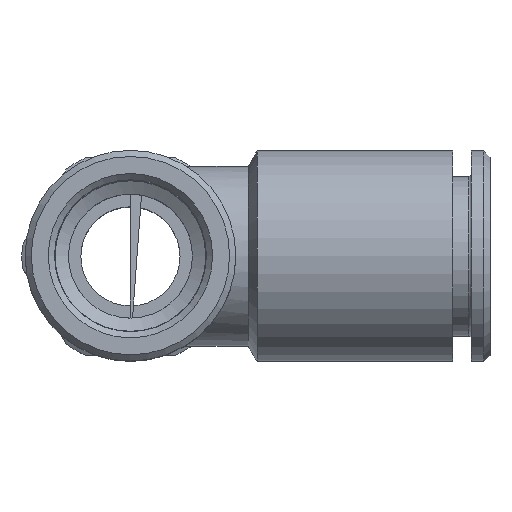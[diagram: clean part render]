
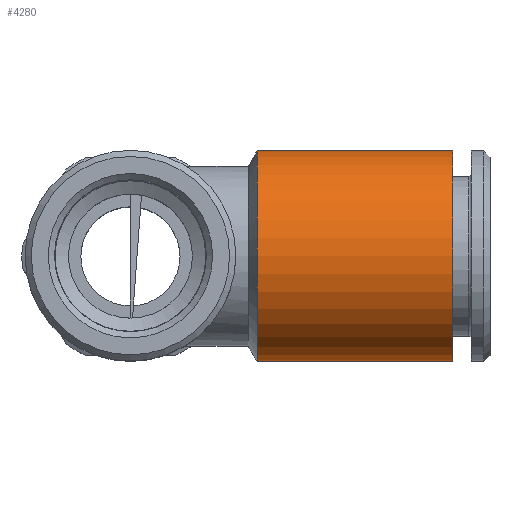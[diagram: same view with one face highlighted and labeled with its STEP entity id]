
A CAD part, top view. The second image highlights one B-rep face of the part: STEP entity #4280.
In plain terms, the highlighted cylindrical face has radius 8.5 mm (diameter 17 mm), a full revolution.
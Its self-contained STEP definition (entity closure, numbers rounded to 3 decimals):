
#4280=ADVANCED_FACE('', (#4290,#4300), #4310, .T.);
#13950=AXIS2_PLACEMENT_3D('Ax2Pl3d', #13960, #13970, #13980);
#13990=AXIS2_PLACEMENT_3D('Ax2Pl3d', #14000, #14010, #14020);
#14030=AXIS2_PLACEMENT_3D('Ax2Pl3d', #14040, #14050, #14060);
#13960=CARTESIAN_POINT('HicPkt', (44.65,14.27,23.511))
;
#22240=CARTESIAN_POINT('', (44.65,14.27,32.011));
#14000=CARTESIAN_POINT('HicPkt', (44.65,14.27,23.511)
);
#14040=CARTESIAN_POINT('HicPkt', (28.872,14.27,
23.511));
#22250=CARTESIAN_POINT('', (28.872,14.27,32.011));
#23390=CIRCLE('Circle', #13950, 8.5);
#23400=CIRCLE('Circle', #14030, 8.5);
#4310=CYLINDRICAL_SURFACE('Zyl', #13990, 8.5);
#13970=DIRECTION('Axis', (1.,0.,0.));
#13980=DIRECTION('RefDirection', (0.,-0.,-1.));
#14010=DIRECTION('Axis', (-1.,0.,0.)
);
#14020=DIRECTION('RefDirection', (0.,
0.,-1.));
#14050=DIRECTION('Axis', (-1.,0.,0.)
);
#14060=DIRECTION('RefDirection', (0.,
0.,-1.));
#31410=EDGE_CURVE('', #31420, #31420, #23390, .T.);
#31430=EDGE_CURVE('', #31440, #31440, #23400, .T.);
#36490=EDGE_LOOP('Edge_loop', (#36500));
#36510=EDGE_LOOP('Edge_loop', (#36520));
#4300=FACE_BOUND('', #36510, .T.);
#4290=FACE_OUTER_BOUND('Face_outer_bound', #36490, .T.);
#36500=ORIENTED_EDGE('', *, *, #31430, .F.);
#36520=ORIENTED_EDGE('', *, *, #31410, .F.);
#31420=VERTEX_POINT('', #22240);
#31440=VERTEX_POINT('', #22250);
